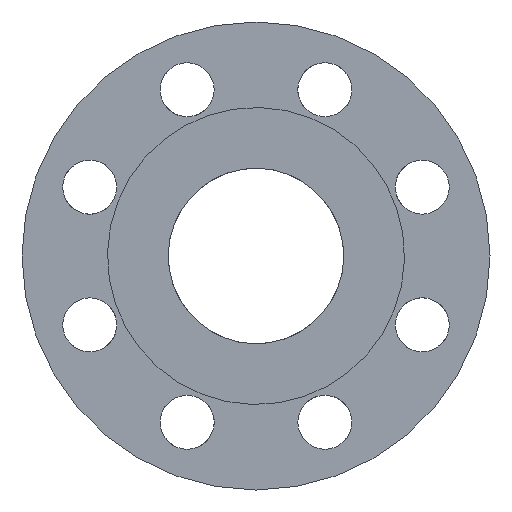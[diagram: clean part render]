
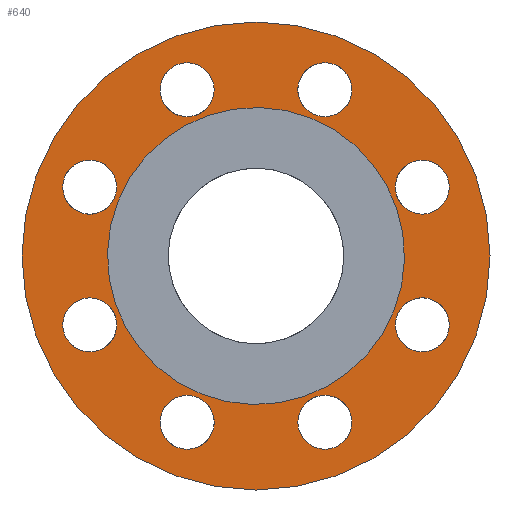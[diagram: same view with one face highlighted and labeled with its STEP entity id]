
A CAD part, front view. The second image highlights one B-rep face of the part: STEP entity #640.
In plain terms, the highlighted planar face has unit normal (0, -1, 0).
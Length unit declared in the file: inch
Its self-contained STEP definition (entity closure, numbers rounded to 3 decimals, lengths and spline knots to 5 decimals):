
#23=PLANE('',#722);
#98=FACE_BOUND('',#243,.T.);
#99=FACE_BOUND('',#244,.T.);
#100=FACE_BOUND('',#245,.T.);
#101=FACE_BOUND('',#246,.T.);
#102=FACE_BOUND('',#247,.T.);
#103=FACE_BOUND('',#248,.T.);
#104=FACE_BOUND('',#249,.T.);
#105=FACE_BOUND('',#250,.T.);
#106=FACE_BOUND('',#251,.T.);
#155=FACE_OUTER_BOUND('',#242,.T.);
#242=EDGE_LOOP('',(#527));
#243=EDGE_LOOP('',(#528));
#244=EDGE_LOOP('',(#529));
#245=EDGE_LOOP('',(#530));
#246=EDGE_LOOP('',(#531));
#247=EDGE_LOOP('',(#532));
#248=EDGE_LOOP('',(#533));
#249=EDGE_LOOP('',(#534));
#250=EDGE_LOOP('',(#535));
#251=EDGE_LOOP('',(#536));
#316=CIRCLE('',#716,2.0625);
#319=CIRCLE('',#723,3.25);
#320=CIRCLE('',#724,0.375);
#321=CIRCLE('',#725,0.375);
#322=CIRCLE('',#726,0.375);
#323=CIRCLE('',#727,0.375);
#324=CIRCLE('',#728,0.375);
#325=CIRCLE('',#729,0.375);
#326=CIRCLE('',#730,0.375);
#327=CIRCLE('',#731,0.375);
#373=VERTEX_POINT('',#1049);
#376=VERTEX_POINT('',#1059);
#377=VERTEX_POINT('',#1061);
#378=VERTEX_POINT('',#1063);
#379=VERTEX_POINT('',#1065);
#380=VERTEX_POINT('',#1067);
#381=VERTEX_POINT('',#1069);
#382=VERTEX_POINT('',#1071);
#383=VERTEX_POINT('',#1073);
#384=VERTEX_POINT('',#1075);
#430=EDGE_CURVE('',#373,#373,#316,.T.);
#433=EDGE_CURVE('',#376,#376,#319,.T.);
#434=EDGE_CURVE('',#377,#377,#320,.T.);
#435=EDGE_CURVE('',#378,#378,#321,.T.);
#436=EDGE_CURVE('',#379,#379,#322,.T.);
#437=EDGE_CURVE('',#380,#380,#323,.T.);
#438=EDGE_CURVE('',#381,#381,#324,.T.);
#439=EDGE_CURVE('',#382,#382,#325,.T.);
#440=EDGE_CURVE('',#383,#383,#326,.T.);
#441=EDGE_CURVE('',#384,#384,#327,.T.);
#527=ORIENTED_EDGE('',*,*,#433,.F.);
#528=ORIENTED_EDGE('',*,*,#430,.T.);
#529=ORIENTED_EDGE('',*,*,#434,.T.);
#530=ORIENTED_EDGE('',*,*,#435,.T.);
#531=ORIENTED_EDGE('',*,*,#436,.T.);
#532=ORIENTED_EDGE('',*,*,#437,.T.);
#533=ORIENTED_EDGE('',*,*,#438,.T.);
#534=ORIENTED_EDGE('',*,*,#439,.T.);
#535=ORIENTED_EDGE('',*,*,#440,.T.);
#536=ORIENTED_EDGE('',*,*,#441,.T.);
#640=ADVANCED_FACE('',(#155,#98,#99,#100,#101,#102,#103,#104,#105,#106),
#23,.F.);
#716=AXIS2_PLACEMENT_3D('',#1050,#879,#880);
#722=AXIS2_PLACEMENT_3D('',#1058,#891,#892);
#723=AXIS2_PLACEMENT_3D('',#1060,#893,#894);
#724=AXIS2_PLACEMENT_3D('',#1062,#895,#896);
#725=AXIS2_PLACEMENT_3D('',#1064,#897,#898);
#726=AXIS2_PLACEMENT_3D('',#1066,#899,#900);
#727=AXIS2_PLACEMENT_3D('',#1068,#901,#902);
#728=AXIS2_PLACEMENT_3D('',#1070,#903,#904);
#729=AXIS2_PLACEMENT_3D('',#1072,#905,#906);
#730=AXIS2_PLACEMENT_3D('',#1074,#907,#908);
#731=AXIS2_PLACEMENT_3D('',#1076,#909,#910);
#879=DIRECTION('center_axis',(0.,1.,0.));
#880=DIRECTION('ref_axis',(-0.48,0.,0.877));
#891=DIRECTION('center_axis',(0.,1.,0.));
#892=DIRECTION('ref_axis',(0.,0.,-1.));
#893=DIRECTION('center_axis',(0.,1.,0.));
#894=DIRECTION('ref_axis',(-1.,0.,0.));
#895=DIRECTION('center_axis',(0.,1.,0.));
#896=DIRECTION('ref_axis',(-1.,0.,0.));
#897=DIRECTION('center_axis',(0.,1.,0.));
#898=DIRECTION('ref_axis',(-0.707,0.,-0.707));
#899=DIRECTION('center_axis',(0.,1.,0.));
#900=DIRECTION('ref_axis',(0.,0.,-1.));
#901=DIRECTION('center_axis',(0.,1.,0.));
#902=DIRECTION('ref_axis',(0.707,0.,-0.707));
#903=DIRECTION('center_axis',(0.,1.,0.));
#904=DIRECTION('ref_axis',(1.,0.,0.));
#905=DIRECTION('center_axis',(0.,1.,0.));
#906=DIRECTION('ref_axis',(0.707,0.,0.707));
#907=DIRECTION('center_axis',(0.,1.,0.));
#908=DIRECTION('ref_axis',(0.,0.,1.));
#909=DIRECTION('center_axis',(0.,1.,0.));
#910=DIRECTION('ref_axis',(-0.707,0.,0.707));
#1049=CARTESIAN_POINT('',(0.99007,0.375,-1.80933));
#1050=CARTESIAN_POINT('Origin',(0.,0.375,
0.));
#1058=CARTESIAN_POINT('Origin',(0.,0.375,
0.));
#1059=CARTESIAN_POINT('',(3.25,0.375,0.));
#1060=CARTESIAN_POINT('Origin',(0.,0.375,
0.));
#1061=CARTESIAN_POINT('',(-1.33171,0.375,2.3097));
#1062=CARTESIAN_POINT('Origin',(-0.95671,0.375,2.3097));
#1063=CARTESIAN_POINT('',(-2.57486,0.375,0.69154));
#1064=CARTESIAN_POINT('Origin',(-2.3097,0.375,0.95671));
#1065=CARTESIAN_POINT('',(-2.3097,0.375,-1.33171));
#1066=CARTESIAN_POINT('Origin',(-2.3097,0.375,-0.95671));
#1067=CARTESIAN_POINT('',(-0.69154,0.375,-2.57486));
#1068=CARTESIAN_POINT('Origin',(-0.95671,0.375,-2.3097));
#1069=CARTESIAN_POINT('',(1.33171,0.375,-2.3097));
#1070=CARTESIAN_POINT('Origin',(0.95671,0.375,-2.3097));
#1071=CARTESIAN_POINT('',(2.57486,0.375,-0.69154));
#1072=CARTESIAN_POINT('Origin',(2.3097,0.375,-0.95671));
#1073=CARTESIAN_POINT('',(2.3097,0.375,1.33171));
#1074=CARTESIAN_POINT('Origin',(2.3097,0.375,0.95671));
#1075=CARTESIAN_POINT('',(0.69154,0.375,2.57486));
#1076=CARTESIAN_POINT('Origin',(0.95671,0.375,2.3097));
